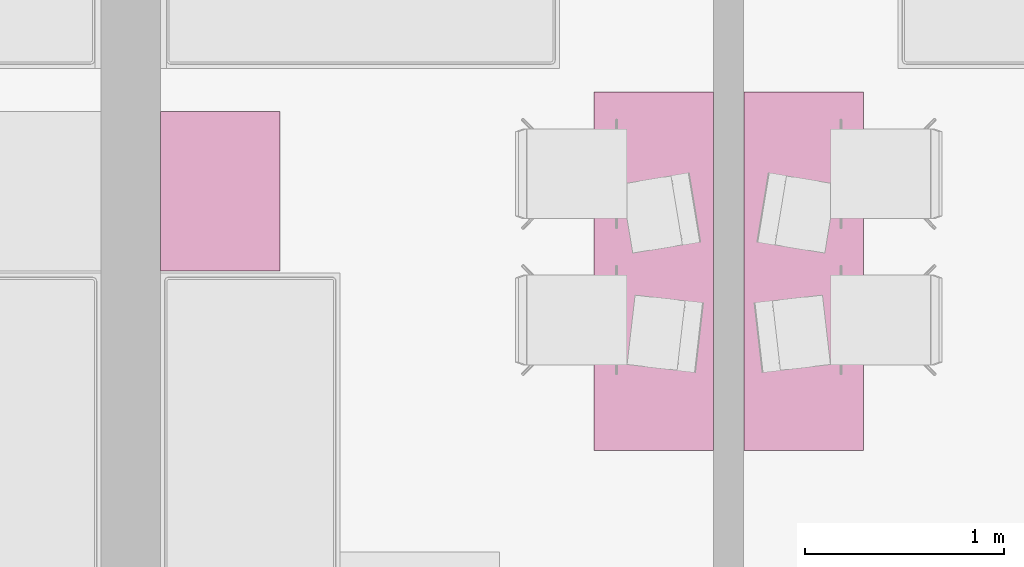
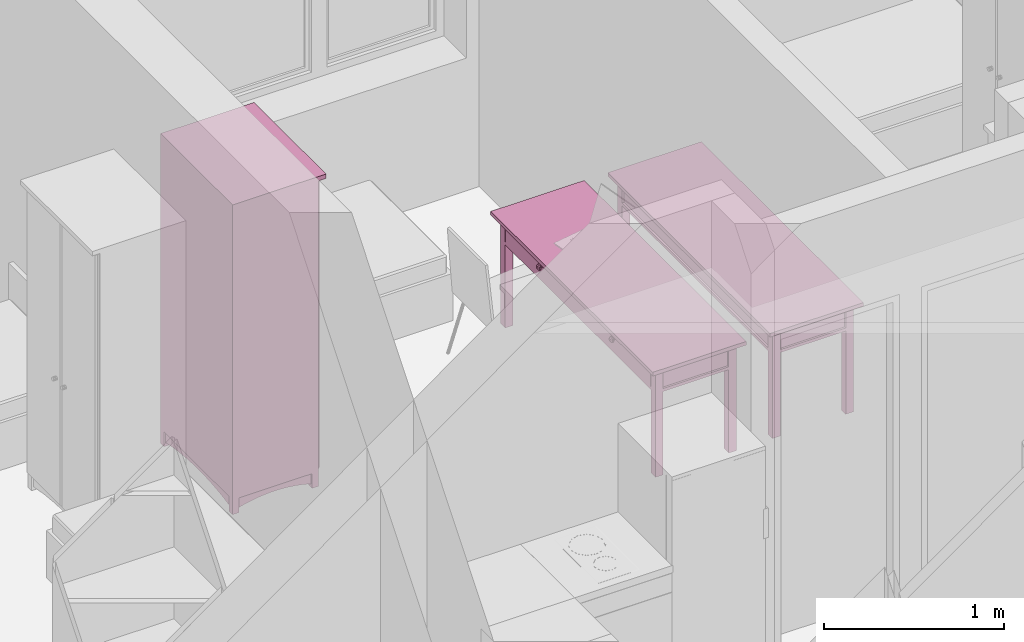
# One storey, part 96 of 165: 3 furnishings.
"""IFC2X3 building model written with IfcOpenShell, lengths in millimetres."""

from ifc_helpers import new_model, entity, si_unit, converted_unit, money_unit, direction, frame, origin_with_axes, place, context, subcontext, project, spatial, faceted_brep, source, transform, mapped, material, material_list, type_object, element, save


model = new_model("IFC2X3")

# Units and contexts
model_context = context("Model", 3, precision=1e-05, world=origin_with_axes(), true_north=direction((0.0, 1.0)))
body_context = subcontext(model_context, "Body", "Model", "MODEL_VIEW")
ifc_project = project(units=[si_unit("LENGTHUNIT", "METRE", prefix="MILLI"), si_unit("AREAUNIT", "SQUARE_METRE"), si_unit("VOLUMEUNIT", "CUBIC_METRE"), converted_unit("PLANEANGLEUNIT", "DEGREE", entity("IfcPlaneAngleMeasure", 0.0174532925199), si_unit("PLANEANGLEUNIT", "RADIAN"), dimensions=[0, 0, 0, 0, 0, 0, 0]), si_unit("SOLIDANGLEUNIT", "STERADIAN"), money_unit("USD"), converted_unit("TIMEUNIT", "Year", entity("IfcTimeMeasure", 31556926.0), si_unit("TIMEUNIT", "SECOND"), dimensions=[0, 0, 0, 0, 0, 0, 0]), si_unit("MASSUNIT", "GRAM"), si_unit("THERMODYNAMICTEMPERATUREUNIT", "DEGREE_CELSIUS"), si_unit("LUMINOUSINTENSITYUNIT", "LUMEN")], contexts=[model_context])

# Site, building, storey
site_placement = place(None, origin_with_axes())
site = spatial("IfcSite", under=ifc_project, at=site_placement, Name="Site", CompositionType="ELEMENT")
building_placement = place(site_placement, origin_with_axes())
building = spatial("IfcBuilding", under=site, at=building_placement, Name="Building", CompositionType="ELEMENT")
storey_placement = place(building_placement, frame((0.0, 0.0, 6300.0), z_axis=(0.0, 0.0, 1.0), x_axis=(1.0, 0.0, 0.0)))
storey = spatial("IfcBuildingStorey", under=building, at=storey_placement, Name="4KORRUS", CompositionType="ELEMENT", Elevation=6300.0)

# Furnishings
ifc_material = material(Name="Background")
ifc_material_list = material_list([ifc_material])
furnishing_element_type_1 = type_object("IfcFurnishingElementType", Name="Cupboard 19")
shared_shape_1 = source(origin_with_axes(), body_context, "Body", "Brep", [
    faceted_brep([(780.0, 600.0, 120.0), (780.0, 600.0, 2050.0), (780.0, 580.0, 2050.0), (780.0, 580.0, 120.0), (20.0, 600.0, 120.0), (20.0, 600.0, 2050.0), (20.0, 580.0, 2050.0), (20.0, 580.0, 120.0)], [[[0, 1, 2, 3]], [[4, 5, 1, 0]], [[1, 5, 6, 2]], [[3, 2, 6, 7]], [[0, 3, 7, 4]], [[7, 6, 5, 4]]]),
    faceted_brep([(0.0, 50.0, 100.0), (0.0, 600.0, 100.0), (20.0, 600.0, 100.0), (20.0, 50.0, 100.0), (0.0, 50.0, 2070.0), (0.0, 600.0, 2070.0), (20.0, 600.0, 2070.0), (20.0, 50.0, 2070.0)], [[[0, 1, 2, 3]], [[0, 4, 5, 1]], [[1, 5, 6, 2]], [[2, 6, 7, 3]], [[3, 7, 4, 0]], [[7, 6, 5, 4]]]),
    faceted_brep([(780.0, 50.0, 100.0), (780.0, 600.0, 100.0), (800.0, 600.0, 100.0), (800.0, 50.0, 100.0), (780.0, 50.0, 2070.0), (780.0, 600.0, 2070.0), (800.0, 600.0, 2070.0), (800.0, 50.0, 2070.0)], [[[0, 1, 2, 3]], [[0, 4, 5, 1]], [[1, 5, 6, 2]], [[2, 6, 7, 3]], [[3, 7, 4, 0]], [[7, 6, 5, 4]]]),
    faceted_brep([(20.0, 50.0, 100.0), (20.0, 600.0, 100.0), (780.0, 600.0, 100.0), (780.0, 50.0, 100.0), (20.0, 50.0, 120.0), (20.0, 600.0, 120.0), (780.0, 600.0, 120.0), (780.0, 50.0, 120.0)], [[[0, 1, 2, 3]], [[0, 4, 5, 1]], [[1, 5, 6, 2]], [[2, 6, 7, 3]], [[3, 7, 4, 0]], [[7, 6, 5, 4]]]),
    faceted_brep([(20.0, 50.0, 2050.0), (20.0, 600.0, 2050.0), (780.0, 600.0, 2050.0), (780.0, 50.0, 2050.0), (20.0, 50.0, 2070.0), (20.0, 600.0, 2070.0), (780.0, 600.0, 2070.0), (780.0, 50.0, 2070.0)], [[[0, 1, 2, 3]], [[0, 4, 5, 1]], [[1, 5, 6, 2]], [[2, 6, 7, 3]], [[3, 7, 4, 0]], [[7, 6, 5, 4]]]),
    faceted_brep([(0.0, 600.0, 2070.0), (0.0, 0.0, 2070.0), (0.0, 0.0, 2100.0), (0.0, 600.0, 2100.0), (800.0, 600.0, 2070.0), (800.0, 0.0, 2070.0), (800.0, 0.0, 2100.0), (800.0, 600.0, 2100.0)], [[[0, 1, 2, 3]], [[0, 4, 5, 1]], [[1, 5, 6, 2]], [[3, 2, 6, 7]], [[4, 0, 3, 7]], [[5, 4, 7, 6]]]),
    faceted_brep([(760.0, 590.0, 25.0), (760.0, 570.0, 25.0), (640.962, 570.0, 45.8), (640.962, 590.0, 45.8), (760.0, 590.0, 100.0), (760.0, 570.0, 100.0), (40.0, 570.0, 100.0), (40.0, 570.0, 25.0), (159.038, 570.0, 45.8), (279.23, 570.0, 58.32), (400.0, 570.0, 62.5), (520.77, 570.0, 58.32), (520.77, 590.0, 58.32), (400.0, 590.0, 62.5), (279.23, 590.0, 58.32), (159.038, 590.0, 45.8), (40.0, 590.0, 25.0), (40.0, 590.0, 100.0)], [[[0, 1, 2, 3]], [[4, 5, 1, 0]], [[1, 5, 6, 7, 8, 9, 10, 11, 2]], [[3, 2, 11, 12]], [[0, 3, 12, 13, 14, 15, 16, 17, 4]], [[17, 6, 5, 4]], [[16, 7, 6, 17]], [[15, 8, 7, 16]], [[14, 9, 8, 15]], [[13, 10, 9, 14]], [[12, 11, 10, 13]]]),
    faceted_brep([(760.0, 80.0, 25.0), (760.0, 60.0, 25.0), (640.962, 60.0, 45.8), (640.962, 80.0, 45.8), (760.0, 80.0, 100.0), (760.0, 60.0, 100.0), (40.0, 60.0, 100.0), (40.0, 60.0, 25.0), (159.038, 60.0, 45.8), (279.23, 60.0, 58.32), (400.0, 60.0, 62.5), (520.77, 60.0, 58.32), (520.77, 80.0, 58.32), (400.0, 80.0, 62.5), (279.23, 80.0, 58.32), (159.038, 80.0, 45.8), (40.0, 80.0, 25.0), (40.0, 80.0, 100.0)], [[[0, 1, 2, 3]], [[4, 5, 1, 0]], [[1, 5, 6, 7, 8, 9, 10, 11, 2]], [[3, 2, 11, 12]], [[0, 3, 12, 13, 14, 15, 16, 17, 4]], [[17, 6, 5, 4]], [[16, 7, 6, 17]], [[15, 8, 7, 16]], [[14, 9, 8, 15]], [[13, 10, 9, 14]], [[12, 11, 10, 13]]]),
    faceted_brep([(790.0, 90.0, 25.0), (770.0, 90.0, 25.0), (770.0, 141.266, 38.072), (790.0, 141.266, 38.072), (790.0, 90.0, 100.0), (770.0, 90.0, 100.0), (770.0, 560.0, 100.0), (770.0, 560.0, 25.0), (770.0, 508.734, 38.072), (770.0, 456.752, 47.92), (770.0, 404.257, 54.508), (770.0, 351.453, 57.808), (770.0, 298.547, 57.808), (770.0, 245.743, 54.508), (770.0, 193.248, 47.92), (790.0, 193.248, 47.92), (790.0, 245.743, 54.508), (790.0, 298.547, 57.808), (790.0, 351.453, 57.808), (790.0, 404.257, 54.508), (790.0, 456.752, 47.92), (790.0, 508.734, 38.072), (790.0, 560.0, 25.0), (790.0, 560.0, 100.0)], [[[0, 1, 2, 3]], [[4, 5, 1, 0]], [[1, 5, 6, 7, 8, 9, 10, 11, 12, 13, 14, 2]], [[3, 2, 14, 15]], [[0, 3, 15, 16, 17, 18, 19, 20, 21, 22, 23, 4]], [[23, 6, 5, 4]], [[22, 7, 6, 23]], [[21, 8, 7, 22]], [[20, 9, 8, 21]], [[19, 10, 9, 20]], [[18, 11, 10, 19]], [[17, 12, 11, 18]], [[16, 13, 12, 17]], [[15, 14, 13, 16]]]),
    faceted_brep([(30.0, 90.0, 25.0), (10.0, 90.0, 25.0), (10.0, 141.266, 38.072), (30.0, 141.266, 38.072), (30.0, 90.0, 100.0), (10.0, 90.0, 100.0), (10.0, 560.0, 100.0), (10.0, 560.0, 25.0), (10.0, 508.734, 38.072), (10.0, 456.752, 47.92), (10.0, 404.257, 54.508), (10.0, 351.453, 57.808), (10.0, 298.547, 57.808), (10.0, 245.743, 54.508), (10.0, 193.248, 47.92), (30.0, 193.248, 47.92), (30.0, 245.743, 54.508), (30.0, 298.547, 57.808), (30.0, 351.453, 57.808), (30.0, 404.257, 54.508), (30.0, 456.752, 47.92), (30.0, 508.734, 38.072), (30.0, 560.0, 25.0), (30.0, 560.0, 100.0)], [[[0, 1, 2, 3]], [[4, 5, 1, 0]], [[1, 5, 6, 7, 8, 9, 10, 11, 12, 13, 14, 2]], [[3, 2, 14, 15]], [[0, 3, 15, 16, 17, 18, 19, 20, 21, 22, 23, 4]], [[23, 6, 5, 4]], [[22, 7, 6, 23]], [[21, 8, 7, 22]], [[20, 9, 8, 21]], [[19, 10, 9, 20]], [[18, 11, 10, 19]], [[17, 12, 11, 18]], [[16, 13, 12, 17]], [[15, 14, 13, 16]]]),
    faceted_brep([(760.0, 560.0, 0.0), (760.0, 560.0, 100.0), (760.0, 600.0, 100.0), (760.0, 600.0, 0.0), (800.0, 560.0, 0.0), (800.0, 560.0, 100.0), (800.0, 600.0, 100.0), (800.0, 600.0, 0.0)], [[[0, 1, 2, 3]], [[4, 5, 1, 0]], [[1, 5, 6, 2]], [[3, 2, 6, 7]], [[0, 3, 7, 4]], [[7, 6, 5, 4]]]),
    faceted_brep([(0.0, 560.0, 0.0), (0.0, 560.0, 100.0), (0.0, 600.0, 100.0), (0.0, 600.0, 0.0), (40.0, 560.0, 0.0), (40.0, 560.0, 100.0), (40.0, 600.0, 100.0), (40.0, 600.0, 0.0)], [[[0, 1, 2, 3]], [[4, 5, 1, 0]], [[1, 5, 6, 2]], [[3, 2, 6, 7]], [[0, 3, 7, 4]], [[7, 6, 5, 4]]]),
    faceted_brep([(760.0, 50.0, 0.0), (760.0, 50.0, 100.0), (760.0, 90.0, 100.0), (760.0, 90.0, 0.0), (800.0, 50.0, 0.0), (800.0, 50.0, 100.0), (800.0, 90.0, 100.0), (800.0, 90.0, 0.0)], [[[0, 1, 2, 3]], [[4, 5, 1, 0]], [[1, 5, 6, 2]], [[3, 2, 6, 7]], [[0, 3, 7, 4]], [[7, 6, 5, 4]]]),
    faceted_brep([(0.0, 50.0, 0.0), (0.0, 50.0, 100.0), (0.0, 90.0, 100.0), (0.0, 90.0, 0.0), (40.0, 50.0, 0.0), (40.0, 50.0, 100.0), (40.0, 90.0, 100.0), (40.0, 90.0, 0.0)], [[[0, 1, 2, 3]], [[4, 5, 1, 0]], [[1, 5, 6, 2]], [[3, 2, 6, 7]], [[0, 3, 7, 4]], [[7, 6, 5, 4]]]),
    faceted_brep([(780.0, 580.0, 587.5), (780.0, 580.0, 607.5), (780.0, 50.0, 607.5), (780.0, 50.0, 587.5), (20.0, 580.0, 587.5), (20.0, 580.0, 607.5), (20.0, 50.0, 607.5), (20.0, 50.0, 587.5)], [[[0, 1, 2, 3]], [[4, 5, 1, 0]], [[1, 5, 6, 2]], [[3, 2, 6, 7]], [[0, 3, 7, 4]], [[7, 6, 5, 4]]]),
    faceted_brep([(780.0, 580.0, 1075.0), (780.0, 580.0, 1095.0), (780.0, 50.0, 1095.0), (780.0, 50.0, 1075.0), (20.0, 580.0, 1075.0), (20.0, 580.0, 1095.0), (20.0, 50.0, 1095.0), (20.0, 50.0, 1075.0)], [[[0, 1, 2, 3]], [[4, 5, 1, 0]], [[1, 5, 6, 2]], [[3, 2, 6, 7]], [[0, 3, 7, 4]], [[7, 6, 5, 4]]]),
    faceted_brep([(780.0, 580.0, 1562.5), (780.0, 580.0, 1582.5), (780.0, 50.0, 1582.5), (780.0, 50.0, 1562.5), (20.0, 580.0, 1562.5), (20.0, 580.0, 1582.5), (20.0, 50.0, 1582.5), (20.0, 50.0, 1562.5)], [[[0, 1, 2, 3]], [[4, 5, 1, 0]], [[1, 5, 6, 2]], [[3, 2, 6, 7]], [[0, 3, 7, 4]], [[7, 6, 5, 4]]]),
    faceted_brep([(789.5, 50.0, 110.5), (400.5, 50.0, 110.5), (400.5, 50.0, 2059.5), (789.5, 50.0, 2059.5), (789.5, 40.0, 110.5), (400.5, 40.0, 110.5), (400.5, 40.0, 2059.5), (789.5, 40.0, 2059.5), (779.5, 30.0, 120.5), (410.5, 30.0, 120.5), (410.5, 30.0, 2049.5), (779.5, 30.0, 2049.5)], [[[0, 1, 2, 3]], [[0, 4, 5, 1]], [[1, 5, 6, 2]], [[2, 6, 7, 3]], [[3, 7, 4, 0]], [[4, 8, 9, 5]], [[5, 9, 10, 6]], [[6, 10, 11, 7]], [[7, 11, 8, 4]], [[10, 9, 8, 11]]]),
    faceted_brep([(399.5, 50.0, 110.5), (10.5, 50.0, 110.5), (10.5, 50.0, 2059.5), (399.5, 50.0, 2059.5), (399.5, 40.0, 110.5), (10.5, 40.0, 110.5), (10.5, 40.0, 2059.5), (399.5, 40.0, 2059.5), (389.5, 30.0, 120.5), (20.5, 30.0, 120.5), (20.5, 30.0, 2049.5), (389.5, 30.0, 2049.5)], [[[0, 1, 2, 3]], [[0, 4, 5, 1]], [[1, 5, 6, 2]], [[2, 6, 7, 3]], [[3, 7, 4, 0]], [[4, 8, 9, 5]], [[5, 9, 10, 6]], [[6, 10, 11, 7]], [[7, 11, 8, 4]], [[10, 9, 8, 11]]]),
    faceted_brep([(339.608, 30.0, 954.0), (338.0, 30.0, 960.0), (339.608, 30.0, 966.0), (344.0, 30.0, 970.392), (350.0, 30.0, 972.0), (356.0, 30.0, 970.392), (360.392, 30.0, 966.0), (362.0, 30.0, 960.0), (360.392, 30.0, 954.0), (356.0, 30.0, 949.608), (350.0, 30.0, 948.0), (344.0, 30.0, 949.608), (339.608, 5.0, 954.0), (338.0, 5.0, 960.0), (339.608, 5.0, 966.0), (344.0, 5.0, 970.392), (350.0, 5.0, 972.0), (356.0, 5.0, 970.392), (360.392, 5.0, 966.0), (362.0, 5.0, 960.0), (360.392, 5.0, 954.0), (356.0, 5.0, 949.608), (350.0, 5.0, 948.0), (344.0, 5.0, 949.608)], [[[0, 1, 2, 3, 4, 5, 6, 7, 8, 9, 10, 11]], [[0, 12, 13, 1]], [[1, 13, 14, 2]], [[2, 14, 15, 3]], [[3, 15, 16, 4]], [[4, 16, 17, 5]], [[5, 17, 18, 6]], [[6, 18, 19, 7]], [[7, 19, 20, 8]], [[8, 20, 21, 9]], [[9, 21, 22, 10]], [[10, 22, 23, 11]], [[11, 23, 12, 0]], [[12, 23, 22, 21, 20, 19, 18, 17, 16, 15, 14, 13]]]),
    faceted_brep([(460.392, 30.0, 954.0), (456.0, 30.0, 949.608), (450.0, 30.0, 948.0), (444.0, 30.0, 949.608), (439.608, 30.0, 954.0), (438.0, 30.0, 960.0), (439.608, 30.0, 966.0), (444.0, 30.0, 970.392), (450.0, 30.0, 972.0), (456.0, 30.0, 970.392), (460.392, 30.0, 966.0), (462.0, 30.0, 960.0), (460.392, 5.0, 954.0), (456.0, 5.0, 949.608), (450.0, 5.0, 948.0), (444.0, 5.0, 949.608), (439.608, 5.0, 954.0), (438.0, 5.0, 960.0), (439.608, 5.0, 966.0), (444.0, 5.0, 970.392), (450.0, 5.0, 972.0), (456.0, 5.0, 970.392), (460.392, 5.0, 966.0), (462.0, 5.0, 960.0)], [[[0, 1, 2, 3, 4, 5, 6, 7, 8, 9, 10, 11]], [[1, 0, 12, 13]], [[2, 1, 13, 14]], [[3, 2, 14, 15]], [[4, 3, 15, 16]], [[5, 4, 16, 17]], [[6, 5, 17, 18]], [[7, 6, 18, 19]], [[8, 7, 19, 20]], [[9, 8, 20, 21]], [[10, 9, 21, 22]], [[11, 10, 22, 23]], [[0, 11, 23, 12]], [[12, 23, 22, 21, 20, 19, 18, 17, 16, 15, 14, 13]]]),
])
furnishing_1_placement = place(storey_placement, frame((-29390.2967033, -7206.41563755, 0.0), z_axis=(0.0, 0.0, 1.0), x_axis=(0.0, 1.0, 0.0)))
element("IfcFurnishingElement", 1, at=furnishing_1_placement, inside=storey, type_object=furnishing_element_type_1, material=ifc_material_list, Name="FU - 014", context=body_context, shape_type="MappedRepresentation", body=[
    mapped(shared_shape_1, transform((0.0, 0.0, 0.0))),
])
furnishing_element_type_2 = type_object("IfcFurnishingElementType", Name="Rectangular Table 01 19")
shared_shape_2 = source(origin_with_axes(), body_context, "Body", "Brep", [
    faceted_brep([(-90.0, 40.0, 0.0), (-90.0, 90.0, 0.0), (-40.0, 90.0, 0.0), (-40.0, 40.0, 0.0), (-90.0, 40.0, 725.0), (-90.0, 90.0, 725.0), (-40.0, 90.0, 725.0), (-40.0, 40.0, 725.0)], [[[0, 1, 2, 3]], [[0, 4, 5, 1]], [[1, 5, 6, 2]], [[2, 6, 7, 3]], [[3, 7, 4, 0]], [[7, 6, 5, 4]]]),
    faceted_brep([(-1760.0, 40.0, 0.0), (-1760.0, 90.0, 0.0), (-1710.0, 90.0, 0.0), (-1710.0, 40.0, 0.0), (-1760.0, 40.0, 725.0), (-1760.0, 90.0, 725.0), (-1710.0, 90.0, 725.0), (-1710.0, 40.0, 725.0)], [[[0, 1, 2, 3]], [[0, 4, 5, 1]], [[1, 5, 6, 2]], [[2, 6, 7, 3]], [[3, 7, 4, 0]], [[7, 6, 5, 4]]]),
    faceted_brep([(-90.0, 510.0, 0.0), (-90.0, 560.0, 0.0), (-40.0, 560.0, 0.0), (-40.0, 510.0, 0.0), (-90.0, 510.0, 725.0), (-90.0, 560.0, 725.0), (-40.0, 560.0, 725.0), (-40.0, 510.0, 725.0)], [[[0, 1, 2, 3]], [[0, 4, 5, 1]], [[1, 5, 6, 2]], [[2, 6, 7, 3]], [[3, 7, 4, 0]], [[7, 6, 5, 4]]]),
    faceted_brep([(-1760.0, 510.0, 0.0), (-1760.0, 560.0, 0.0), (-1710.0, 560.0, 0.0), (-1710.0, 510.0, 0.0), (-1760.0, 510.0, 725.0), (-1760.0, 560.0, 725.0), (-1710.0, 560.0, 725.0), (-1710.0, 510.0, 725.0)], [[[0, 1, 2, 3]], [[0, 4, 5, 1]], [[1, 5, 6, 2]], [[2, 6, 7, 3]], [[3, 7, 4, 0]], [[7, 6, 5, 4]]]),
    faceted_brep([(-1760.0, 40.0, 565.0), (-1760.0, 560.0, 565.0), (-40.0, 560.0, 565.0), (-40.0, 40.0, 565.0), (-1760.0, 40.0, 585.0), (-1760.0, 560.0, 585.0), (-40.0, 560.0, 585.0), (-40.0, 40.0, 585.0)], [[[0, 1, 2, 3]], [[0, 4, 5, 1]], [[1, 5, 6, 2]], [[2, 6, 7, 3]], [[3, 7, 4, 0]], [[7, 6, 5, 4]]]),
    faceted_brep([(-1710.0, 52.5, 585.0), (-1710.0, 77.5, 585.0), (-90.0, 77.5, 585.0), (-90.0, 52.5, 585.0), (-1710.0, 52.5, 745.0), (-1710.0, 77.5, 745.0), (-90.0, 77.5, 745.0), (-90.0, 52.5, 745.0)], [[[0, 1, 2, 3]], [[0, 4, 5, 1]], [[1, 5, 6, 2]], [[2, 6, 7, 3]], [[3, 7, 4, 0]], [[7, 6, 5, 4]]]),
    faceted_brep([(-77.5, 90.0, 585.0), (-77.5, 510.0, 585.0), (-52.5, 510.0, 585.0), (-52.5, 90.0, 585.0), (-77.5, 90.0, 745.0), (-77.5, 510.0, 745.0), (-52.5, 510.0, 745.0), (-52.5, 90.0, 745.0)], [[[0, 1, 2, 3]], [[0, 4, 5, 1]], [[1, 5, 6, 2]], [[2, 6, 7, 3]], [[3, 7, 4, 0]], [[7, 6, 5, 4]]]),
    faceted_brep([(-90.0, 547.5, 585.0), (-90.0, 522.5, 585.0), (-1710.0, 522.5, 585.0), (-1710.0, 547.5, 585.0), (-90.0, 547.5, 745.0), (-90.0, 522.5, 745.0), (-1710.0, 522.5, 745.0), (-1710.0, 547.5, 745.0)], [[[0, 1, 2, 3]], [[0, 4, 5, 1]], [[1, 5, 6, 2]], [[2, 6, 7, 3]], [[3, 7, 4, 0]], [[7, 6, 5, 4]]]),
    faceted_brep([(-1722.5, 510.0, 585.0), (-1722.5, 90.0, 585.0), (-1747.5, 90.0, 585.0), (-1747.5, 510.0, 585.0), (-1722.5, 510.0, 745.0), (-1722.5, 90.0, 745.0), (-1747.5, 90.0, 745.0), (-1747.5, 510.0, 745.0)], [[[0, 1, 2, 3]], [[0, 4, 5, 1]], [[1, 5, 6, 2]], [[2, 6, 7, 3]], [[3, 7, 4, 0]], [[7, 6, 5, 4]]]),
    faceted_brep([(-897.5, 40.0, 585.0), (-897.5, 60.0, 585.0), (-95.0, 60.0, 585.0), (-95.0, 40.0, 585.0), (-897.5, 40.0, 745.0), (-897.5, 60.0, 745.0), (-95.0, 60.0, 745.0), (-95.0, 40.0, 745.0)], [[[0, 1, 2, 3]], [[0, 4, 5, 1]], [[1, 5, 6, 2]], [[2, 6, 7, 3]], [[3, 7, 4, 0]], [[7, 6, 5, 4]]]),
    faceted_brep([(-1705.0, 40.0, 585.0), (-1705.0, 60.0, 585.0), (-902.5, 60.0, 585.0), (-902.5, 40.0, 585.0), (-1705.0, 40.0, 745.0), (-1705.0, 60.0, 745.0), (-902.5, 60.0, 745.0), (-902.5, 40.0, 745.0)], [[[0, 1, 2, 3]], [[0, 4, 5, 1]], [[1, 5, 6, 2]], [[2, 6, 7, 3]], [[3, 7, 4, 0]], [[7, 6, 5, 4]]]),
    faceted_brep([(-504.91, 40.0, 660.0), (-506.25, 40.0, 665.0), (-504.91, 40.0, 670.0), (-501.25, 40.0, 673.66), (-496.25, 40.0, 675.0), (-491.25, 40.0, 673.66), (-487.59, 40.0, 670.0), (-486.25, 40.0, 665.0), (-487.59, 40.0, 660.0), (-491.25, 40.0, 656.34), (-496.25, 40.0, 655.0), (-501.25, 40.0, 656.34), (-504.91, 25.0, 660.0), (-506.25, 25.0, 665.0), (-504.91, 25.0, 670.0), (-501.25, 25.0, 673.66), (-496.25, 25.0, 675.0), (-491.25, 25.0, 673.66), (-487.59, 25.0, 670.0), (-486.25, 25.0, 665.0), (-487.59, 25.0, 660.0), (-491.25, 25.0, 656.34), (-496.25, 25.0, 655.0), (-501.25, 25.0, 656.34)], [[[0, 1, 2, 3, 4, 5, 6, 7, 8, 9, 10, 11]], [[0, 12, 13, 1]], [[1, 13, 14, 2]], [[2, 14, 15, 3]], [[3, 15, 16, 4]], [[4, 16, 17, 5]], [[5, 17, 18, 6]], [[6, 18, 19, 7]], [[7, 19, 20, 8]], [[8, 20, 21, 9]], [[9, 21, 22, 10]], [[10, 22, 23, 11]], [[11, 23, 12, 0]], [[12, 23, 22, 21, 20, 19, 18, 17, 16, 15, 14, 13]]]),
    faceted_brep([(-506.25, 12.01, 665.0), (-504.91, 12.01, 660.0), (-496.25, 10.0, 665.0), (-513.571, 17.5, 665.0), (-511.25, 17.5, 656.34), (-501.25, 12.01, 656.34), (-504.91, 12.01, 670.0), (-516.25, 25.0, 665.0), (-513.571, 25.0, 655.0), (-504.91, 17.5, 650.0), (-511.25, 17.5, 673.66), (-496.25, 12.01, 655.0), (-501.25, 12.01, 673.66), (-513.571, 25.0, 675.0), (-506.25, 25.0, 682.321), (-496.25, 25.0, 685.0), (-486.25, 25.0, 682.321), (-478.929, 25.0, 675.0), (-476.25, 25.0, 665.0), (-478.929, 25.0, 655.0), (-486.25, 25.0, 647.679), (-496.25, 25.0, 645.0), (-506.25, 25.0, 647.679), (-496.25, 17.5, 647.679), (-504.91, 17.5, 680.0), (-491.25, 12.01, 656.34), (-496.25, 12.01, 675.0), (-496.25, 17.5, 682.321), (-487.59, 17.5, 680.0), (-481.25, 17.5, 673.66), (-478.929, 17.5, 665.0), (-481.25, 17.5, 656.34), (-487.59, 17.5, 650.0), (-487.59, 12.01, 660.0), (-491.25, 12.01, 673.66), (-487.59, 12.01, 670.0), (-486.25, 12.01, 665.0)], [[[0, 1, 2]], [[3, 4, 1, 0]], [[1, 5, 2]], [[6, 0, 2]], [[7, 8, 4, 3]], [[4, 9, 5, 1]], [[10, 3, 0, 6]], [[5, 11, 2]], [[12, 6, 2]], [[8, 7, 13, 14, 15, 16, 17, 18, 19, 20, 21, 22]], [[8, 22, 9, 4]], [[13, 7, 3, 10]], [[9, 23, 11, 5]], [[24, 10, 6, 12]], [[11, 25, 2]], [[26, 12, 2]], [[14, 13, 10, 24]], [[15, 14, 24, 27]], [[16, 15, 27, 28]], [[17, 16, 28, 29]], [[18, 17, 29, 30]], [[19, 18, 30, 31]], [[20, 19, 31, 32]], [[21, 20, 32, 23]], [[22, 21, 23, 9]], [[23, 32, 25, 11]], [[27, 24, 12, 26]], [[25, 33, 2]], [[34, 26, 2]], [[28, 27, 26, 34]], [[29, 28, 34, 35]], [[30, 29, 35, 36]], [[31, 30, 36, 33]], [[32, 31, 33, 25]], [[33, 36, 2]], [[35, 34, 2]], [[36, 35, 2]]]),
    faceted_brep([(-1312.41, 40.0, 660.0), (-1313.75, 40.0, 665.0), (-1312.41, 40.0, 670.0), (-1308.75, 40.0, 673.66), (-1303.75, 40.0, 675.0), (-1298.75, 40.0, 673.66), (-1295.09, 40.0, 670.0), (-1293.75, 40.0, 665.0), (-1295.09, 40.0, 660.0), (-1298.75, 40.0, 656.34), (-1303.75, 40.0, 655.0), (-1308.75, 40.0, 656.34), (-1312.41, 25.0, 660.0), (-1313.75, 25.0, 665.0), (-1312.41, 25.0, 670.0), (-1308.75, 25.0, 673.66), (-1303.75, 25.0, 675.0), (-1298.75, 25.0, 673.66), (-1295.09, 25.0, 670.0), (-1293.75, 25.0, 665.0), (-1295.09, 25.0, 660.0), (-1298.75, 25.0, 656.34), (-1303.75, 25.0, 655.0), (-1308.75, 25.0, 656.34)], [[[0, 1, 2, 3, 4, 5, 6, 7, 8, 9, 10, 11]], [[0, 12, 13, 1]], [[1, 13, 14, 2]], [[2, 14, 15, 3]], [[3, 15, 16, 4]], [[4, 16, 17, 5]], [[5, 17, 18, 6]], [[6, 18, 19, 7]], [[7, 19, 20, 8]], [[8, 20, 21, 9]], [[9, 21, 22, 10]], [[10, 22, 23, 11]], [[11, 23, 12, 0]], [[12, 23, 22, 21, 20, 19, 18, 17, 16, 15, 14, 13]]]),
    faceted_brep([(-1313.75, 12.01, 665.0), (-1312.41, 12.01, 660.0), (-1303.75, 10.0, 665.0), (-1321.071, 17.5, 665.0), (-1318.75, 17.5, 656.34), (-1308.75, 12.01, 656.34), (-1312.41, 12.01, 670.0), (-1323.75, 25.0, 665.0), (-1321.071, 25.0, 655.0), (-1312.41, 17.5, 650.0), (-1318.75, 17.5, 673.66), (-1303.75, 12.01, 655.0), (-1308.75, 12.01, 673.66), (-1321.071, 25.0, 675.0), (-1313.75, 25.0, 682.321), (-1303.75, 25.0, 685.0), (-1293.75, 25.0, 682.321), (-1286.429, 25.0, 675.0), (-1283.75, 25.0, 665.0), (-1286.429, 25.0, 655.0), (-1293.75, 25.0, 647.679), (-1303.75, 25.0, 645.0), (-1313.75, 25.0, 647.679), (-1303.75, 17.5, 647.679), (-1312.41, 17.5, 680.0), (-1298.75, 12.01, 656.34), (-1303.75, 12.01, 675.0), (-1303.75, 17.5, 682.321), (-1295.09, 17.5, 680.0), (-1288.75, 17.5, 673.66), (-1286.429, 17.5, 665.0), (-1288.75, 17.5, 656.34), (-1295.09, 17.5, 650.0), (-1295.09, 12.01, 660.0), (-1298.75, 12.01, 673.66), (-1295.09, 12.01, 670.0), (-1293.75, 12.01, 665.0)], [[[0, 1, 2]], [[3, 4, 1, 0]], [[1, 5, 2]], [[6, 0, 2]], [[7, 8, 4, 3]], [[4, 9, 5, 1]], [[10, 3, 0, 6]], [[5, 11, 2]], [[12, 6, 2]], [[8, 7, 13, 14, 15, 16, 17, 18, 19, 20, 21, 22]], [[8, 22, 9, 4]], [[13, 7, 3, 10]], [[9, 23, 11, 5]], [[24, 10, 6, 12]], [[11, 25, 2]], [[26, 12, 2]], [[14, 13, 10, 24]], [[15, 14, 24, 27]], [[16, 15, 27, 28]], [[17, 16, 28, 29]], [[18, 17, 29, 30]], [[19, 18, 30, 31]], [[20, 19, 31, 32]], [[21, 20, 32, 23]], [[22, 21, 23, 9]], [[23, 32, 25, 11]], [[27, 24, 12, 26]], [[25, 33, 2]], [[34, 26, 2]], [[28, 27, 26, 34]], [[29, 28, 34, 35]], [[30, 29, 35, 36]], [[31, 30, 36, 33]], [[32, 31, 33, 25]], [[33, 36, 2]], [[35, 34, 2]], [[36, 35, 2]]]),
    faceted_brep([(-1800.0, 0.0, 725.0), (-1800.0, 600.0, 725.0), (0.0, 600.0, 725.0), (0.0, 0.0, 725.0), (-1800.0, 0.0, 750.0), (-1800.0, 600.0, 750.0), (0.0, 600.0, 750.0), (0.0, 0.0, 750.0)], [[[0, 1, 2, 3]], [[0, 4, 5, 1]], [[1, 5, 6, 2]], [[2, 6, 7, 3]], [[3, 7, 4, 0]], [[7, 6, 5, 4]]]),
])
furnishing_2_placement = place(storey_placement, frame((-26464.8498837, -6307.26955348, 0.0), z_axis=(0.0, 0.0, 1.0), x_axis=(0.0, 1.0, 0.0)))
element("IfcFurnishingElement", 2, at=furnishing_2_placement, inside=storey, type_object=furnishing_element_type_2, material=ifc_material_list, Name="FU - 011", context=body_context, shape_type="MappedRepresentation", body=[
    mapped(shared_shape_2, transform((0.0, 0.0, 0.0))),
])
shared_shape_3 = source(origin_with_axes(), body_context, "Body", "Brep", [
    faceted_brep([(90.0, 40.0, 0.0), (40.0, 40.0, 0.0), (40.0, 90.0, 0.0), (90.0, 90.0, 0.0), (90.0, 40.0, 725.0), (40.0, 40.0, 725.0), (40.0, 90.0, 725.0), (90.0, 90.0, 725.0)], [[[0, 1, 2, 3]], [[1, 0, 4, 5]], [[2, 1, 5, 6]], [[3, 2, 6, 7]], [[0, 3, 7, 4]], [[5, 4, 7, 6]]]),
    faceted_brep([(1760.0, 40.0, 0.0), (1710.0, 40.0, 0.0), (1710.0, 90.0, 0.0), (1760.0, 90.0, 0.0), (1760.0, 40.0, 725.0), (1710.0, 40.0, 725.0), (1710.0, 90.0, 725.0), (1760.0, 90.0, 725.0)], [[[0, 1, 2, 3]], [[1, 0, 4, 5]], [[2, 1, 5, 6]], [[3, 2, 6, 7]], [[0, 3, 7, 4]], [[5, 4, 7, 6]]]),
    faceted_brep([(90.0, 510.0, 0.0), (40.0, 510.0, 0.0), (40.0, 560.0, 0.0), (90.0, 560.0, 0.0), (90.0, 510.0, 725.0), (40.0, 510.0, 725.0), (40.0, 560.0, 725.0), (90.0, 560.0, 725.0)], [[[0, 1, 2, 3]], [[1, 0, 4, 5]], [[2, 1, 5, 6]], [[3, 2, 6, 7]], [[0, 3, 7, 4]], [[5, 4, 7, 6]]]),
    faceted_brep([(1760.0, 510.0, 0.0), (1710.0, 510.0, 0.0), (1710.0, 560.0, 0.0), (1760.0, 560.0, 0.0), (1760.0, 510.0, 725.0), (1710.0, 510.0, 725.0), (1710.0, 560.0, 725.0), (1760.0, 560.0, 725.0)], [[[0, 1, 2, 3]], [[1, 0, 4, 5]], [[2, 1, 5, 6]], [[3, 2, 6, 7]], [[0, 3, 7, 4]], [[5, 4, 7, 6]]]),
    faceted_brep([(1760.0, 40.0, 565.0), (40.0, 40.0, 565.0), (40.0, 560.0, 565.0), (1760.0, 560.0, 565.0), (1760.0, 40.0, 585.0), (40.0, 40.0, 585.0), (40.0, 560.0, 585.0), (1760.0, 560.0, 585.0)], [[[0, 1, 2, 3]], [[1, 0, 4, 5]], [[2, 1, 5, 6]], [[3, 2, 6, 7]], [[0, 3, 7, 4]], [[5, 4, 7, 6]]]),
    faceted_brep([(1710.0, 52.5, 585.0), (90.0, 52.5, 585.0), (90.0, 77.5, 585.0), (1710.0, 77.5, 585.0), (1710.0, 52.5, 745.0), (90.0, 52.5, 745.0), (90.0, 77.5, 745.0), (1710.0, 77.5, 745.0)], [[[0, 1, 2, 3]], [[1, 0, 4, 5]], [[2, 1, 5, 6]], [[3, 2, 6, 7]], [[0, 3, 7, 4]], [[5, 4, 7, 6]]]),
    faceted_brep([(77.5, 90.0, 585.0), (52.5, 90.0, 585.0), (52.5, 510.0, 585.0), (77.5, 510.0, 585.0), (77.5, 90.0, 745.0), (52.5, 90.0, 745.0), (52.5, 510.0, 745.0), (77.5, 510.0, 745.0)], [[[0, 1, 2, 3]], [[1, 0, 4, 5]], [[2, 1, 5, 6]], [[3, 2, 6, 7]], [[0, 3, 7, 4]], [[5, 4, 7, 6]]]),
    faceted_brep([(90.0, 547.5, 585.0), (1710.0, 547.5, 585.0), (1710.0, 522.5, 585.0), (90.0, 522.5, 585.0), (90.0, 547.5, 745.0), (1710.0, 547.5, 745.0), (1710.0, 522.5, 745.0), (90.0, 522.5, 745.0)], [[[0, 1, 2, 3]], [[1, 0, 4, 5]], [[2, 1, 5, 6]], [[3, 2, 6, 7]], [[0, 3, 7, 4]], [[5, 4, 7, 6]]]),
    faceted_brep([(1722.5, 510.0, 585.0), (1747.5, 510.0, 585.0), (1747.5, 90.0, 585.0), (1722.5, 90.0, 585.0), (1722.5, 510.0, 745.0), (1747.5, 510.0, 745.0), (1747.5, 90.0, 745.0), (1722.5, 90.0, 745.0)], [[[0, 1, 2, 3]], [[1, 0, 4, 5]], [[2, 1, 5, 6]], [[3, 2, 6, 7]], [[0, 3, 7, 4]], [[5, 4, 7, 6]]]),
    faceted_brep([(897.5, 40.0, 585.0), (95.0, 40.0, 585.0), (95.0, 60.0, 585.0), (897.5, 60.0, 585.0), (897.5, 40.0, 745.0), (95.0, 40.0, 745.0), (95.0, 60.0, 745.0), (897.5, 60.0, 745.0)], [[[0, 1, 2, 3]], [[1, 0, 4, 5]], [[2, 1, 5, 6]], [[3, 2, 6, 7]], [[0, 3, 7, 4]], [[5, 4, 7, 6]]]),
    faceted_brep([(1705.0, 40.0, 585.0), (902.5, 40.0, 585.0), (902.5, 60.0, 585.0), (1705.0, 60.0, 585.0), (1705.0, 40.0, 745.0), (902.5, 40.0, 745.0), (902.5, 60.0, 745.0), (1705.0, 60.0, 745.0)], [[[0, 1, 2, 3]], [[1, 0, 4, 5]], [[2, 1, 5, 6]], [[3, 2, 6, 7]], [[0, 3, 7, 4]], [[5, 4, 7, 6]]]),
    faceted_brep([(504.91, 40.0, 660.0), (501.25, 40.0, 656.34), (496.25, 40.0, 655.0), (491.25, 40.0, 656.34), (487.59, 40.0, 660.0), (486.25, 40.0, 665.0), (487.59, 40.0, 670.0), (491.25, 40.0, 673.66), (496.25, 40.0, 675.0), (501.25, 40.0, 673.66), (504.91, 40.0, 670.0), (506.25, 40.0, 665.0), (504.91, 25.0, 660.0), (501.25, 25.0, 656.34), (496.25, 25.0, 655.0), (491.25, 25.0, 656.34), (487.59, 25.0, 660.0), (486.25, 25.0, 665.0), (487.59, 25.0, 670.0), (491.25, 25.0, 673.66), (496.25, 25.0, 675.0), (501.25, 25.0, 673.66), (504.91, 25.0, 670.0), (506.25, 25.0, 665.0)], [[[0, 1, 2, 3, 4, 5, 6, 7, 8, 9, 10, 11]], [[1, 0, 12, 13]], [[2, 1, 13, 14]], [[3, 2, 14, 15]], [[4, 3, 15, 16]], [[5, 4, 16, 17]], [[6, 5, 17, 18]], [[7, 6, 18, 19]], [[8, 7, 19, 20]], [[9, 8, 20, 21]], [[10, 9, 21, 22]], [[11, 10, 22, 23]], [[0, 11, 23, 12]], [[12, 23, 22, 21, 20, 19, 18, 17, 16, 15, 14, 13]]]),
    faceted_brep([(506.25, 12.01, 665.0), (496.25, 10.0, 665.0), (504.91, 12.01, 660.0), (504.91, 12.01, 670.0), (501.25, 12.01, 656.34), (513.571, 17.5, 665.0), (511.25, 17.5, 656.34), (501.25, 12.01, 673.66), (511.25, 17.5, 673.66), (496.25, 12.01, 655.0), (504.91, 17.5, 650.0), (516.25, 25.0, 665.0), (513.571, 25.0, 655.0), (496.25, 12.01, 675.0), (504.91, 17.5, 680.0), (513.571, 25.0, 675.0), (491.25, 12.01, 656.34), (496.25, 17.5, 647.679), (506.25, 25.0, 647.679), (496.25, 25.0, 645.0), (486.25, 25.0, 647.679), (478.929, 25.0, 655.0), (476.25, 25.0, 665.0), (478.929, 25.0, 675.0), (486.25, 25.0, 682.321), (496.25, 25.0, 685.0), (506.25, 25.0, 682.321), (491.25, 12.01, 673.66), (496.25, 17.5, 682.321), (487.59, 12.01, 660.0), (487.59, 17.5, 650.0), (481.25, 17.5, 656.34), (478.929, 17.5, 665.0), (481.25, 17.5, 673.66), (487.59, 17.5, 680.0), (487.59, 12.01, 670.0), (486.25, 12.01, 665.0)], [[[0, 1, 2]], [[3, 1, 0]], [[2, 1, 4]], [[5, 0, 2, 6]], [[7, 1, 3]], [[8, 3, 0, 5]], [[4, 1, 9]], [[6, 2, 4, 10]], [[11, 5, 6, 12]], [[13, 1, 7]], [[14, 7, 3, 8]], [[15, 8, 5, 11]], [[9, 1, 16]], [[10, 4, 9, 17]], [[12, 6, 10, 18]], [[12, 18, 19, 20, 21, 22, 23, 24, 25, 26, 15, 11]], [[27, 1, 13]], [[28, 13, 7, 14]], [[26, 14, 8, 15]], [[16, 1, 29]], [[17, 9, 16, 30]], [[18, 10, 17, 19]], [[19, 17, 30, 20]], [[20, 30, 31, 21]], [[21, 31, 32, 22]], [[22, 32, 33, 23]], [[23, 33, 34, 24]], [[24, 34, 28, 25]], [[25, 28, 14, 26]], [[35, 1, 27]], [[34, 27, 13, 28]], [[29, 1, 36]], [[30, 16, 29, 31]], [[31, 29, 36, 32]], [[32, 36, 35, 33]], [[33, 35, 27, 34]], [[36, 1, 35]]]),
    faceted_brep([(1312.41, 40.0, 660.0), (1308.75, 40.0, 656.34), (1303.75, 40.0, 655.0), (1298.75, 40.0, 656.34), (1295.09, 40.0, 660.0), (1293.75, 40.0, 665.0), (1295.09, 40.0, 670.0), (1298.75, 40.0, 673.66), (1303.75, 40.0, 675.0), (1308.75, 40.0, 673.66), (1312.41, 40.0, 670.0), (1313.75, 40.0, 665.0), (1312.41, 25.0, 660.0), (1308.75, 25.0, 656.34), (1303.75, 25.0, 655.0), (1298.75, 25.0, 656.34), (1295.09, 25.0, 660.0), (1293.75, 25.0, 665.0), (1295.09, 25.0, 670.0), (1298.75, 25.0, 673.66), (1303.75, 25.0, 675.0), (1308.75, 25.0, 673.66), (1312.41, 25.0, 670.0), (1313.75, 25.0, 665.0)], [[[0, 1, 2, 3, 4, 5, 6, 7, 8, 9, 10, 11]], [[1, 0, 12, 13]], [[2, 1, 13, 14]], [[3, 2, 14, 15]], [[4, 3, 15, 16]], [[5, 4, 16, 17]], [[6, 5, 17, 18]], [[7, 6, 18, 19]], [[8, 7, 19, 20]], [[9, 8, 20, 21]], [[10, 9, 21, 22]], [[11, 10, 22, 23]], [[0, 11, 23, 12]], [[12, 23, 22, 21, 20, 19, 18, 17, 16, 15, 14, 13]]]),
    faceted_brep([(1313.75, 12.01, 665.0), (1303.75, 10.0, 665.0), (1312.41, 12.01, 660.0), (1312.41, 12.01, 670.0), (1308.75, 12.01, 656.34), (1321.071, 17.5, 665.0), (1318.75, 17.5, 656.34), (1308.75, 12.01, 673.66), (1318.75, 17.5, 673.66), (1303.75, 12.01, 655.0), (1312.41, 17.5, 650.0), (1323.75, 25.0, 665.0), (1321.071, 25.0, 655.0), (1303.75, 12.01, 675.0), (1312.41, 17.5, 680.0), (1321.071, 25.0, 675.0), (1298.75, 12.01, 656.34), (1303.75, 17.5, 647.679), (1313.75, 25.0, 647.679), (1303.75, 25.0, 645.0), (1293.75, 25.0, 647.679), (1286.429, 25.0, 655.0), (1283.75, 25.0, 665.0), (1286.429, 25.0, 675.0), (1293.75, 25.0, 682.321), (1303.75, 25.0, 685.0), (1313.75, 25.0, 682.321), (1298.75, 12.01, 673.66), (1303.75, 17.5, 682.321), (1295.09, 12.01, 660.0), (1295.09, 17.5, 650.0), (1288.75, 17.5, 656.34), (1286.429, 17.5, 665.0), (1288.75, 17.5, 673.66), (1295.09, 17.5, 680.0), (1295.09, 12.01, 670.0), (1293.75, 12.01, 665.0)], [[[0, 1, 2]], [[3, 1, 0]], [[2, 1, 4]], [[5, 0, 2, 6]], [[7, 1, 3]], [[8, 3, 0, 5]], [[4, 1, 9]], [[6, 2, 4, 10]], [[11, 5, 6, 12]], [[13, 1, 7]], [[14, 7, 3, 8]], [[15, 8, 5, 11]], [[9, 1, 16]], [[10, 4, 9, 17]], [[12, 6, 10, 18]], [[12, 18, 19, 20, 21, 22, 23, 24, 25, 26, 15, 11]], [[27, 1, 13]], [[28, 13, 7, 14]], [[26, 14, 8, 15]], [[16, 1, 29]], [[17, 9, 16, 30]], [[18, 10, 17, 19]], [[19, 17, 30, 20]], [[20, 30, 31, 21]], [[21, 31, 32, 22]], [[22, 32, 33, 23]], [[23, 33, 34, 24]], [[24, 34, 28, 25]], [[25, 28, 14, 26]], [[35, 1, 27]], [[34, 27, 13, 28]], [[29, 1, 36]], [[30, 16, 29, 31]], [[31, 29, 36, 32]], [[32, 36, 35, 33]], [[33, 35, 27, 34]], [[36, 1, 35]]]),
    faceted_brep([(1800.0, 0.0, 725.0), (0.0, 0.0, 725.0), (0.0, 600.0, 725.0), (1800.0, 600.0, 725.0), (1800.0, 0.0, 750.0), (0.0, 0.0, 750.0), (0.0, 600.0, 750.0), (1800.0, 600.0, 750.0)], [[[0, 1, 2, 3]], [[1, 0, 4, 5]], [[2, 1, 5, 6]], [[3, 2, 6, 7]], [[0, 3, 7, 4]], [[5, 4, 7, 6]]]),
])
furnishing_3_placement = place(storey_placement, frame((-27815.7435229, -6307.26955348, 0.0), z_axis=(0.0, 0.0, 1.0), x_axis=(0.0, -1.0, 0.0)))
element("IfcFurnishingElement", 3, at=furnishing_3_placement, inside=storey, type_object=furnishing_element_type_2, material=ifc_material_list, Name="FU - 011", context=body_context, shape_type="MappedRepresentation", body=[
    mapped(shared_shape_3, transform((0.0, 0.0, 0.0))),
])

save(model, "model.ifc")
